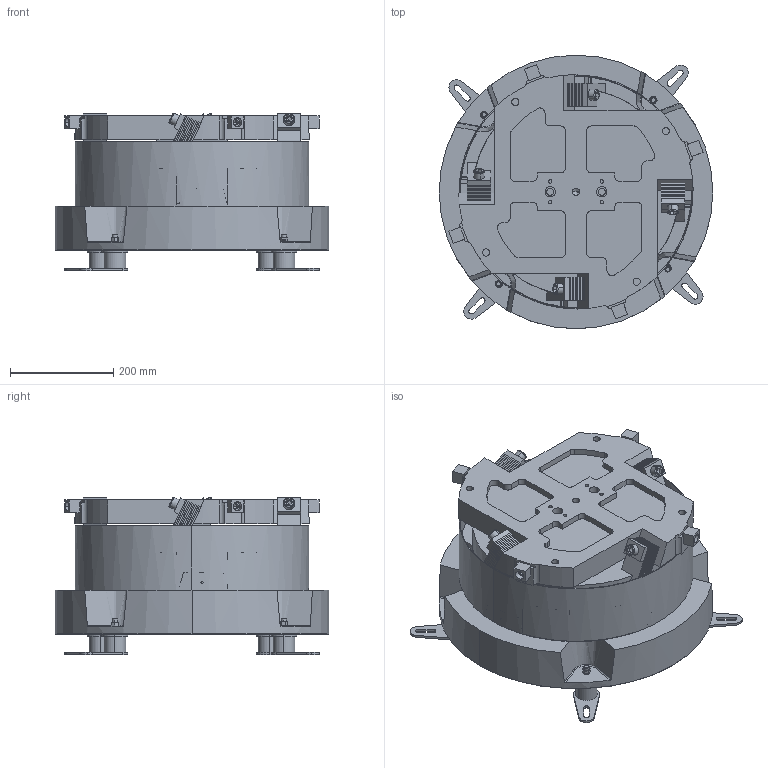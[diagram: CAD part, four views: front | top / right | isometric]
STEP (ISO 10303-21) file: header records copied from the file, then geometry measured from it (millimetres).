
FILE_DESCRIPTION (( 'STEP AP214' ), '1' );
FILE_NAME ('DF460.0.STEP', '2022-04-21T03:36:04', ( '' ), ( '' ), 'SwSTEP 2.0', 'SolidWorks 2018', '' );
FILE_SCHEMA (( 'AUTOMOTIVE_DESIGN' ));
Length unit declared in the file: millimetre
Products named in the file (1): DF460.0
Bounding box: 530 x 530 x 304.96 mm (x, y, z)
Volume: 39569930.3 mm3; surface area: 1904046.4 mm2
Topology: 41 solids, 43 shells, 1136 faces, 2977 edges, 1927 vertices
Faces by surface type: plane 626, cylinder 380, cone 104, torus 14, bspline 12
Entity records: 37842 total; most frequent: CARTESIAN_POINT 8703, ORIENTED_EDGE 5866, DIRECTION 5761, EDGE_CURVE 2933, AXIS2_PLACEMENT_3D 2059, VERTEX_POINT 1927, VECTOR 1643, LINE 1643
